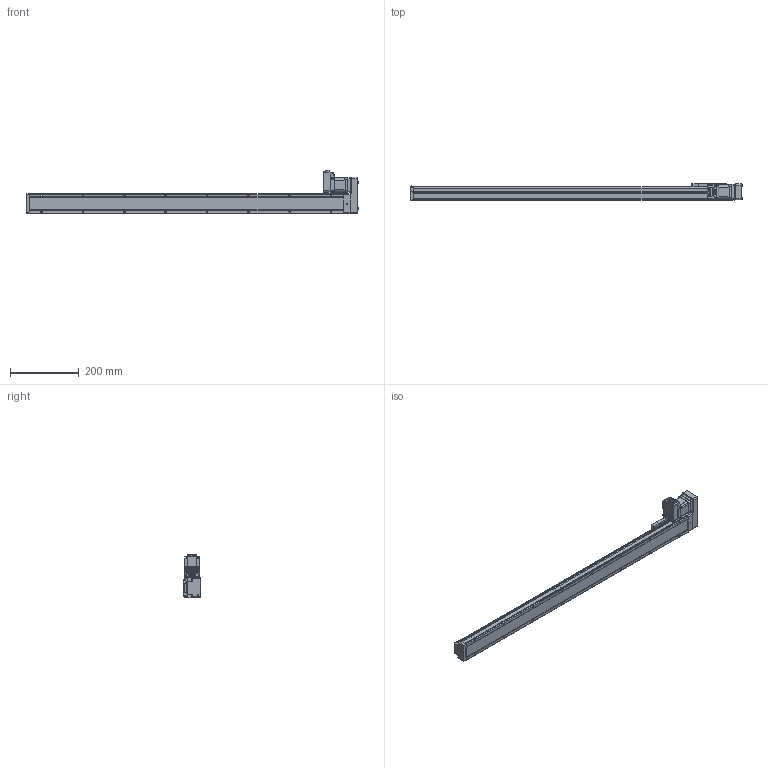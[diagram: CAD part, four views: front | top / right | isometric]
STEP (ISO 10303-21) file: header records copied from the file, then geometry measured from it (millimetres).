
FILE_DESCRIPTION (( 'STEP AP214' ), '1' );
FILE_NAME ('LEFS3(+)-25LNM1□-800-17L.STEP', '2023-05-31T04:56:35', ( '' ), ( '' ), 'SwSTEP 2.0', 'SolidWorks 2019', '' );
FILE_SCHEMA (( 'AUTOMOTIVE_DESIGN' ));
Length unit declared in the file: millimetre
Products named in the file (5): LEFS3(+)-25R(L)NM1仩_MOTOR Flange; LEFS3(+)-25LNM1□-800-17L; LEFS3(+)-25R(L)NM1仩_BODY_800; CM3(+)-17L50A; LEFS3(+)-25NM1_TABLE
Assembly tree (4 placements, depth 2):
  LEFS3(+)-25LNM1□-800-17L
    LEFS3(+)-25R(L)NM1仩_BODY_800
    LEFS3(+)-25NM1_TABLE
    LEFS3(+)-25R(L)NM1仩_MOTOR Flange
    CM3(+)-17L50A
Bounding box: 962.9 x 48 x 125.85 mm (x, y, z)
Volume: 2040995.6 mm3; surface area: 253344.7 mm2
Topology: 5 solids, 5 shells, 1039 faces, 2680 edges, 1692 vertices
Faces by surface type: plane 533, cylinder 334, cone 83, torus 39, bspline 29, sphere 21
Entity records: 42385 total; most frequent: CARTESIAN_POINT 7602, ORIENTED_EDGE 5298, DIRECTION 5132, EDGE_CURVE 2649, AXIS2_PLACEMENT_3D 1734, VERTEX_POINT 1692, VECTOR 1664, LINE 1664
